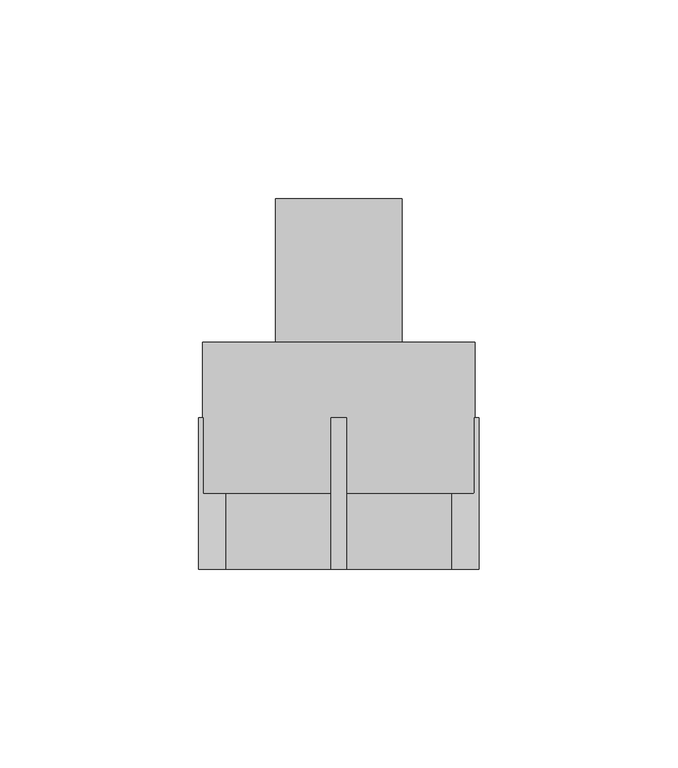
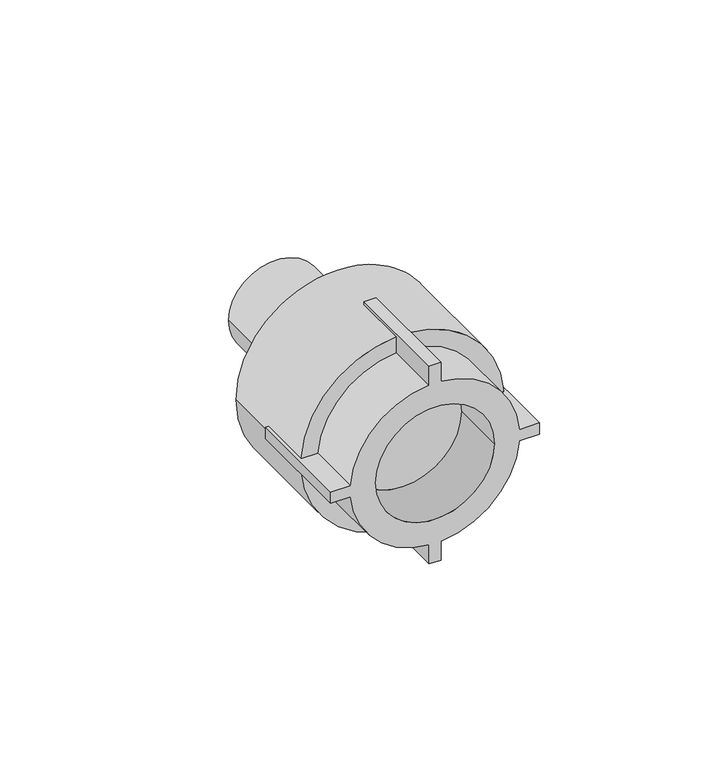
"""IFC4 building model written with IfcOpenShell, lengths in millimetres: pipe fitting geometry, EGB_VASEN_ PPR_Entronque rosca macho WXR101 : Entronque rosca macho WXR101."""

from ifc_helpers import new_model, si_unit, point, frame, origin, origin_2d, place, context, project, spatial, polyline, circle_curve, trimmed, segment, composite_curve, outline, extrude, source, transform, mapped, element, save
from ifc_brep_helpers import plane_surface, cylinder_surface, revolved_surface, advanced_brep


def pipe_fitting_a845eafe(model_context):
    return source(origin(), model_context, "Body", "SolidModel", [
        advanced_brep(
        [(2.0, -19.0, 35.2), (-2.0, -19.0, 35.2), (-2.0, -19.0, 28.429738), (-28.429738, -19.0, 2.0), (-35.2, -19.0, 2.0), (-35.2, -19.0, -2.0), (-28.429738, -19.0, -2.0), (-2.0, -19.0, -28.429738), (-2.0, -19.0, -35.2), (2.0, -19.0, -35.2), (2.0, -19.0, -28.429738), (28.429738, -19.0, -2.0), (35.2, -19.0, -2.0), (35.2, -19.0, 2.0), (28.429738, -19.0, 2.0), (2.0, -19.0, 28.429738), (-20.0, -19.0, 0.0), (20.0, -19.0, 0.0), (-2.0, 19.0, 35.2), (2.0, 19.0, 35.2), (2.0, 19.0, 34.1414704), (-2.0, 19.0, 34.1414704), (2.0, 19.0, -35.2), (-2.0, 19.0, -35.2), (-2.0, 19.0, -34.1414704), (2.0, 19.0, -34.1414704), (35.2, 19.0, 2.0), (35.2, 19.0, -2.0), (34.1414704, 19.0, -2.0), (34.2, 19.0, 0.0), (34.1414704, 19.0, 2.0), (-35.2, 19.0, -2.0), (-35.2, 19.0, 2.0), (-34.1414704, 19.0, 2.0), (-34.2, 19.0, 0.0), (-34.1414704, 19.0, -2.0), (2.0, 0.0, 28.429738), (2.0, 0.0, 34.1414704), (-2.0, 0.0, 34.1414704), (-2.0, 0.0, 28.429738), (2.0, 0.0, -34.1414704), (2.0, 0.0, -28.429738), (-2.0, 0.0, -28.429738), (-2.0, 0.0, -34.1414704), (28.429738, 0.0, -2.0), (34.1414704, 0.0, -2.0), (34.1414704, 0.0, 2.0), (28.429738, 0.0, 2.0), (-34.1414704, 0.0, -2.0), (-28.429738, 0.0, -2.0), (-28.429738, 0.0, 2.0), (-34.1414704, 0.0, 2.0), (-20.0, 0.0, 0.0), (20.0, 0.0, 0.0), (-34.2, 38.0, 0.0), (34.2, 38.0, 0.0)],
        [
            (0, 1),
            (1, 2),
            (2, 3, circle_curve(frame((0.0, -19.0, 0.0), z_axis=(0.0, -1.0, 0.0), x_axis=(1.0, 0.0, 0.0)), 28.5)),
            (3, 4),
            (4, 5),
            (5, 6),
            (6, 7, circle_curve(frame((0.0, -19.0, 0.0), z_axis=(0.0, -1.0, 0.0), x_axis=(1.0, 0.0, 0.0)), 28.5)),
            (7, 8),
            (8, 9),
            (9, 10),
            (10, 11, circle_curve(frame((0.0, -19.0, 0.0), z_axis=(0.0, -1.0, 0.0), x_axis=(1.0, 0.0, 0.0)), 28.5)),
            (11, 12),
            (12, 13),
            (13, 14),
            (14, 15, circle_curve(frame((0.0, -19.0, 0.0), z_axis=(0.0, -1.0, 0.0), x_axis=(1.0, 0.0, 0.0)), 28.5)),
            (15, 0),
            (16, 17, circle_curve(frame((0.0, -19.0, 0.0), z_axis=(0.0, 1.0, 0.0), x_axis=(1.0, 0.0, 0.0)), 20.0)),
            (17, 16, circle_curve(frame((0.0, -19.0, 0.0), z_axis=(0.0, 1.0, 0.0), x_axis=(1.0, 0.0, 0.0)), 20.0)),
            (18, 19),
            (19, 20),
            (20, 21, circle_curve(frame((0.0, 19.0, 0.0), z_axis=(0.0, -1.0, 0.0), x_axis=(1.0, 0.0, 0.0)), 34.2)),
            (21, 18),
            (22, 23),
            (23, 24),
            (24, 25, circle_curve(frame((0.0, 19.0, 0.0), z_axis=(0.0, -1.0, 0.0), x_axis=(1.0, 0.0, 0.0)), 34.2)),
            (25, 22),
            (26, 27),
            (27, 28),
            (28, 29, circle_curve(frame((0.0, 19.0, 0.0), z_axis=(0.0, -1.0, 0.0), x_axis=(1.0, 0.0, 0.0)), 34.2)),
            (29, 30, circle_curve(frame((0.0, 19.0, 0.0), z_axis=(0.0, -1.0, 0.0), x_axis=(1.0, 0.0, 0.0)), 34.2)),
            (30, 26),
            (31, 32),
            (32, 33),
            (33, 34, circle_curve(frame((0.0, 19.0, 0.0), z_axis=(0.0, -1.0, 0.0), x_axis=(1.0, 0.0, 0.0)), 34.2)),
            (34, 35, circle_curve(frame((0.0, 19.0, 0.0), z_axis=(0.0, -1.0, 0.0), x_axis=(1.0, 0.0, 0.0)), 34.2)),
            (35, 31),
            (19, 0),
            (15, 36),
            (36, 37),
            (37, 20),
            (18, 1),
            (21, 38),
            (38, 39),
            (39, 2),
            (8, 23),
            (22, 9),
            (25, 40),
            (40, 41),
            (41, 10),
            (7, 42),
            (42, 43),
            (43, 24),
            (27, 12),
            (11, 44),
            (44, 45),
            (45, 28),
            (26, 13),
            (30, 46),
            (46, 47),
            (47, 14),
            (5, 31),
            (35, 48),
            (48, 49),
            (49, 6),
            (32, 4),
            (3, 50),
            (50, 51),
            (51, 33),
            (49, 42, circle_curve(frame((0.0, 0.0, 0.0), z_axis=(0.0, -1.0, 0.0), x_axis=(1.0, 0.0, 0.0)), 28.5)),
            (41, 44, circle_curve(frame((0.0, 0.0, 0.0), z_axis=(0.0, -1.0, 0.0), x_axis=(1.0, 0.0, 0.0)), 28.5)),
            (39, 50, circle_curve(frame((0.0, 0.0, 0.0), z_axis=(0.0, -1.0, 0.0), x_axis=(1.0, 0.0, 0.0)), 28.5)),
            (47, 36, circle_curve(frame((0.0, 0.0, 0.0), z_axis=(0.0, -1.0, 0.0), x_axis=(1.0, 0.0, 0.0)), 28.5)),
            (16, 52),
            (52, 53, circle_curve(frame((0.0, 0.0, 0.0), z_axis=(0.0, 1.0, 0.0), x_axis=(1.0, 0.0, 0.0)), 20.0)),
            (53, 17),
            (53, 52, circle_curve(frame((0.0, 0.0, 0.0), z_axis=(0.0, 1.0, 0.0), x_axis=(1.0, 0.0, 0.0)), 20.0)),
            (40, 45, circle_curve(frame((0.0, 0.0, 0.0), z_axis=(0.0, -1.0, 0.0), x_axis=(1.0, 0.0, 0.0)), 34.2)),
            (48, 43, circle_curve(frame((0.0, 0.0, 0.0), z_axis=(0.0, -1.0, 0.0), x_axis=(1.0, 0.0, 0.0)), 34.2)),
            (46, 37, circle_curve(frame((0.0, 0.0, 0.0), z_axis=(0.0, -1.0, 0.0), x_axis=(1.0, 0.0, 0.0)), 34.2)),
            (38, 51, circle_curve(frame((0.0, 0.0, 0.0), z_axis=(0.0, -1.0, 0.0), x_axis=(1.0, 0.0, 0.0)), 34.2)),
            (54, 55, circle_curve(frame((0.0, 38.0, 0.0), z_axis=(0.0, 1.0, 0.0), x_axis=(1.0, 0.0, 0.0)), 34.2)),
            (55, 54, circle_curve(frame((0.0, 38.0, 0.0), z_axis=(0.0, 1.0, 0.0), x_axis=(1.0, 0.0, 0.0)), 34.2)),
            (55, 29),
            (34, 54),
        ],
        [
            plane_surface(frame((0.0, -19.0, 0.0), z_axis=(0.0, -1.0, 0.0), x_axis=(0.0, 0.0, 1.0))),
            plane_surface(frame((0.0, 19.0, 0.0), z_axis=(0.0, 1.0, 0.0), x_axis=(0.0, 0.0, 1.0))),
            plane_surface(frame((2.0, -19.0, 27.5), z_axis=(1.0, 0.0, 0.0), x_axis=(0.0, 1.0, 0.0))),
            plane_surface(frame((2.0, -19.0, 35.2), z_axis=(0.0, 0.0, 1.0), x_axis=(0.0, 1.0, 0.0))),
            plane_surface(frame((-2.0, -19.0, 35.2), z_axis=(-1.0, 0.0, 0.0), x_axis=(0.0, 1.0, 0.0))),
            plane_surface(frame((-2.0, -19.0, -35.2), z_axis=(0.0, 0.0, -1.0), x_axis=(0.0, 1.0, 0.0))),
            plane_surface(frame((2.0, -19.0, -35.2), z_axis=(1.0, 0.0, 0.0), x_axis=(0.0, 1.0, 0.0))),
            plane_surface(frame((-2.0, -19.0, -27.5), z_axis=(-1.0, 0.0, 0.0), x_axis=(0.0, 1.0, 0.0))),
            plane_surface(frame((27.5, -19.0, -2.0), z_axis=(0.0, 0.0, -1.0), x_axis=(0.0, 1.0, 0.0))),
            plane_surface(frame((35.2, -19.0, -2.0), z_axis=(1.0, 0.0, 0.0), x_axis=(0.0, 1.0, 0.0))),
            plane_surface(frame((35.2, -19.0, 2.0), z_axis=(0.0, 0.0, 1.0), x_axis=(0.0, 1.0, 0.0))),
            plane_surface(frame((-35.2, -19.0, -2.0), z_axis=(0.0, 0.0, -1.0), x_axis=(0.0, 1.0, 0.0))),
            plane_surface(frame((-27.5, -19.0, 2.0), z_axis=(0.0, 0.0, 1.0), x_axis=(0.0, 1.0, 0.0))),
            plane_surface(frame((-35.2, -19.0, 2.0), z_axis=(-1.0, 0.0, 0.0), x_axis=(0.0, 1.0, 0.0))),
            cylinder_surface(frame((0.0, 0.0, 0.0), z_axis=(0.0, -1.0, 0.0), x_axis=(1.0, 0.0, 0.0)), 28.5),
            revolved_surface(polyline([(20.0, 0.0, 0.0), (20.0, -19.0, 0.0)]), (0.0, 0.0, 0.0), (0.0, 1.0, 0.0)),
            plane_surface(frame((34.2, 0.0, 0.0), z_axis=(0.0, -1.0, 0.0), x_axis=(0.0, 0.0, 1.0))),
            plane_surface(frame((34.2, 38.0, 0.0), z_axis=(0.0, 1.0, 0.0), x_axis=(0.0, 0.0, -1.0))),
            cylinder_surface(frame((0.0, 38.0, 0.0), z_axis=(0.0, -1.0, 0.0), x_axis=(1.0, 0.0, 0.0)), 34.2),
        ],
        [
            (0, [[1, 2, 3, 4, 5, 6, 7, 8, 9, 10, 11, 12, 13, 14, 15, 16], [17, 18]]),
            (1, [[19, 20, 21, 22]]),
            (1, [[23, 24, 25, 26]]),
            (1, [[27, 28, 29, 30, 31]]),
            (1, [[32, 33, 34, 35, 36]]),
            (2, [[37, -16, 38, 39, 40, -20]]),
            (3, [[-1, -37, -19, 41]]),
            (4, [[-41, -22, 42, 43, 44, -2]]),
            (5, [[-9, 45, -23, 46]]),
            (6, [[-46, -26, 47, 48, 49, -10]]),
            (7, [[-45, -8, 50, 51, 52, -24]]),
            (8, [[53, -12, 54, 55, 56, -28]]),
            (9, [[-13, -53, -27, 57]]),
            (10, [[-57, -31, 58, 59, 60, -14]]),
            (11, [[61, -36, 62, 63, 64, -6]]),
            (12, [[65, -4, 66, 67, 68, -33]]),
            (13, [[-5, -65, -32, -61]]),
            (14, [[-7, -64, 69, -50]]),
            (14, [[-11, -49, 70, -54]]),
            (14, [[-3, -44, 71, -66]]),
            (14, [[-15, -60, 72, -38]]),
            (15, [[-17, 73, 74, 75]]),
            (15, [[-18, -75, 76, -73]]),
            (16, [[-74, -76]]),
            (16, [[77, -55, -70, -48]]),
            (16, [[78, -51, -69, -63]]),
            (16, [[79, -39, -72, -59]]),
            (16, [[80, -67, -71, -43]]),
            (17, [[81, 82]]),
            (18, [[-82, 83, -29, -56, -77, -47, -25, -52, -78, -62, -35, 84]]),
            (18, [[-81, -84, -34, -68, -80, -42, -21, -40, -79, -58, -30, -83]]),
        ],
    ),
        extrude(outline(composite_curve([segment(trimmed(circle_curve(origin_2d(), 15.875), [point((0.0, -15.875))], [point((0.0, 15.875))], False, "CARTESIAN"), True, "CONTINUOUS"), segment(trimmed(circle_curve(origin_2d(), 15.875), [point((0.0, 15.875))], [point((0.0, -15.875))], False, "CARTESIAN"), True, "CONTINUOUS")], self_intersect=False)), frame((0.0, 19.0, 0.0), z_axis=(0.0, 1.0, 0.0), x_axis=(0.0, 0.0, 1.0)), (0.0, 0.0, 1.0), 55.0),
    ])


if __name__ == "__main__":
    model = new_model("IFC4")
    model_context = context("Model", 3, world=origin())
    ifc_project = project(units=[si_unit("LENGTHUNIT", "METRE", prefix="MILLI")], contexts=[model_context])
    site = spatial("IfcSite", under=ifc_project)
    building = spatial("IfcBuilding", under=site)
    placement = place(None, origin())
    pipe_fitting_shape = pipe_fitting_a845eafe(model_context)
    element("IfcPipeFitting", 1, ObjectType="EGB_VASEN_ PPR_Entronque rosca macho WXR101 : Entronque rosca macho WXR101", at=placement, inside=building, context=model_context, shape_type="MappedRepresentation", body=[
        mapped(pipe_fitting_shape, transform((0.0, 0.0, 0.0), x_axis=(1.0, 0.0, 0.0), y_axis=(0.0, 1.0, 0.0), z_axis=(0.0, 0.0, 1.0))),
    ])
    save(model, "model.ifc")
